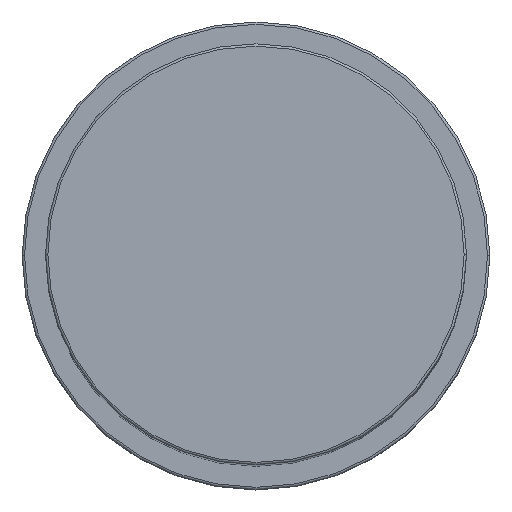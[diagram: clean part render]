
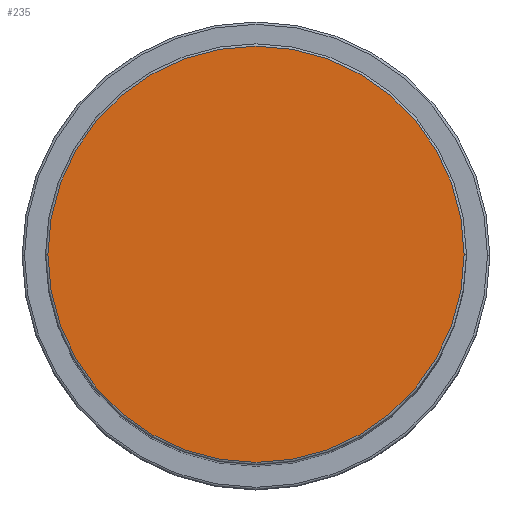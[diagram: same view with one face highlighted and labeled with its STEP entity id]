
A CAD part, top view. The second image highlights one B-rep face of the part: STEP entity #235.
In plain terms, the highlighted planar face has unit normal (0, 0, 1).
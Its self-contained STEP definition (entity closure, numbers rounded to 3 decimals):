
#48 = CARTESIAN_POINT ( 'NONE',  ( 0., 0., 209. ) ) ;
#125 = CARTESIAN_POINT ( 'NONE',  ( 44.5, 0., 209. ) ) ;
#235 = ADVANCED_FACE ( 'NONE', ( #1008 ), #1593, .T. ) ;
#269 = EDGE_CURVE ( 'NONE', #1104, #1421, #1356, .T. ) ;
#462 = DIRECTION ( 'NONE',  ( 0., 0., 1. ) ) ;
#830 = DIRECTION ( 'NONE',  ( 1., 0., 0. ) ) ;
#954 = DIRECTION ( 'NONE',  ( 0., 0., 1. ) ) ;
#967 = CARTESIAN_POINT ( 'NONE',  ( 0., 0., 209. ) ) ;
#1008 = FACE_OUTER_BOUND ( 'NONE', #1462, .T. ) ;
#1009 = AXIS2_PLACEMENT_3D ( 'NONE', #967, #462, #1110 ) ;
#1031 = EDGE_CURVE ( 'NONE', #1421, #1104, #1083, .T. ) ;
#1045 = AXIS2_PLACEMENT_3D ( 'NONE', #1605, #1618, #1485 ) ;
#1083 = CIRCLE ( 'NONE', #1009, 44.5 ) ;
#1104 = VERTEX_POINT ( 'NONE', #1117 ) ;
#1110 = DIRECTION ( 'NONE',  ( 1., 0., 0. ) ) ;
#1117 = CARTESIAN_POINT ( 'NONE',  ( -44.5, 0., 209. ) ) ;
#1215 = ORIENTED_EDGE ( 'NONE', *, *, #1031, .T. ) ;
#1356 = CIRCLE ( 'NONE', #1045, 44.5 ) ;
#1406 = AXIS2_PLACEMENT_3D ( 'NONE', #48, #954, #830 ) ;
#1421 = VERTEX_POINT ( 'NONE', #125 ) ;
#1458 = ORIENTED_EDGE ( 'NONE', *, *, #269, .T. ) ;
#1462 = EDGE_LOOP ( 'NONE', ( #1215, #1458 ) ) ;
#1485 = DIRECTION ( 'NONE',  ( 1., 0., 0. ) ) ;
#1593 = PLANE ( 'NONE',  #1406 ) ;
#1605 = CARTESIAN_POINT ( 'NONE',  ( 0., 0., 209. ) ) ;
#1618 = DIRECTION ( 'NONE',  ( 0., 0., 1. ) ) ;
